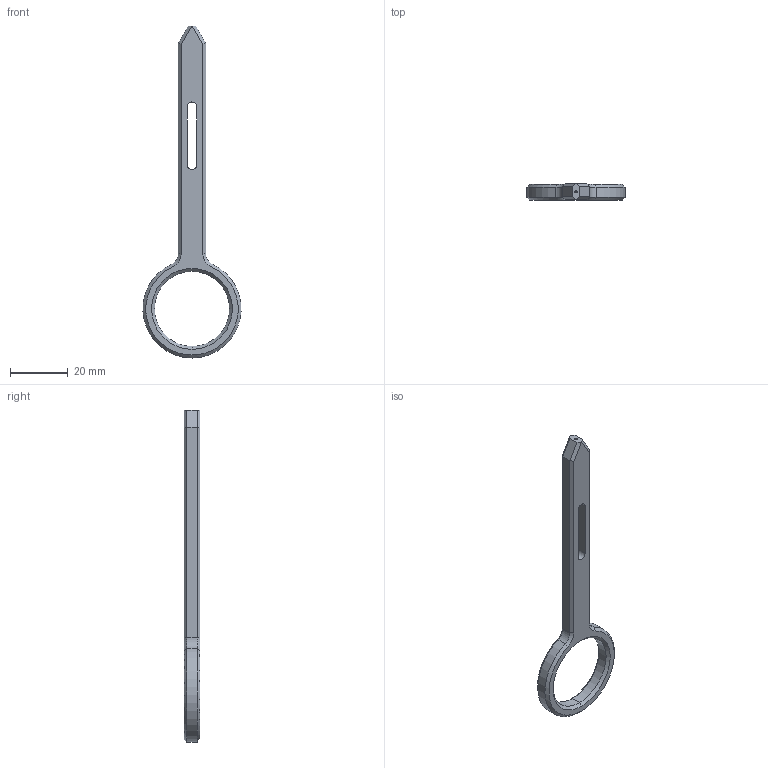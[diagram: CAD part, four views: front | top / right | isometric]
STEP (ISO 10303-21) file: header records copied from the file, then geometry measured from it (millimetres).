
FILE_DESCRIPTION (( 'STEP AP214' ), '1' );
FILE_NAME ('Center 1mm Rev-1.STEP', '2025-11-23T05:06:29', ( 'Admin' ), ( '' ), 'SwSTEP 2.0', 'SolidWorks 2023', '' );
FILE_SCHEMA (( 'AUTOMOTIVE_DESIGN' ));
Length unit declared in the file: millimetre
Products named in the file (1): Center 1mm Rev-1
Bounding box: 33.97 x 5.5 x 115 mm (x, y, z)
Volume: 5445.2 mm3; surface area: 3905.5 mm2
Topology: 1 solids, 1 shells, 40 faces, 94 edges, 57 vertices
Faces by surface type: plane 18, cone 11, cylinder 11
Entity records: 1166 total; most frequent: DIRECTION 209, CARTESIAN_POINT 192, ORIENTED_EDGE 188, EDGE_CURVE 94, AXIS2_PLACEMENT_3D 74, VECTOR 61, LINE 61, VERTEX_POINT 57
